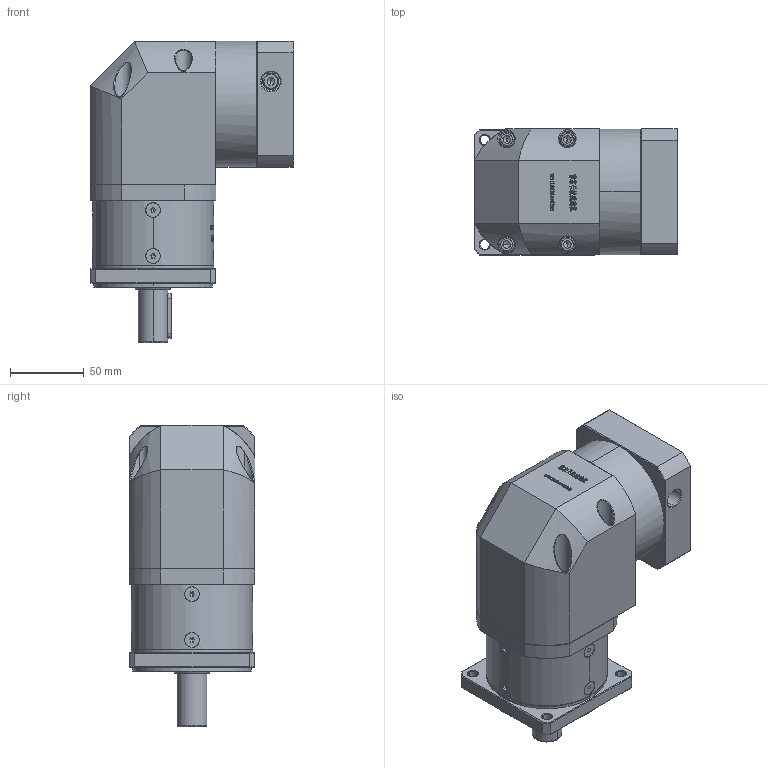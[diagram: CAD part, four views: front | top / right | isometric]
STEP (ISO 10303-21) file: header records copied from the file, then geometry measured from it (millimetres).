
FILE_DESCRIPTION (( 'STEP AP214' ), '1' );
FILE_NAME ('ZF80-D20-L1-12.7-73-69.5X69.5-M6.step', '2022-05-08T11:55:42', ( '' ), ( 'Microsoft' ), 'SwSTEP 2.0', 'SolidWorks 2016', '' );
FILE_SCHEMA (( 'AUTOMOTIVE_DESIGN' ));
Length unit declared in the file: millimetre
Products named in the file (1): ZF80-D20-L1-12.7-73-69.5X69.5-M6
Bounding box: 137.6 x 85 x 203.5 mm (x, y, z)
Volume: 1253259.6 mm3; surface area: 135388.3 mm2
Topology: 13 solids, 13 shells, 3059 faces, 8035 edges, 5124 vertices
Faces by surface type: plane 1619, bspline 624, cylinder 443, cone 359, torus 14
Entity records: 165060 total; most frequent: CARTESIAN_POINT 61707, ORIENTED_EDGE 15978, DIRECTION 12016, EDGE_CURVE 7989, VERTEX_POINT 5124, LINE 4970, VECTOR 4970, AXIS2_PLACEMENT_3D 3523
